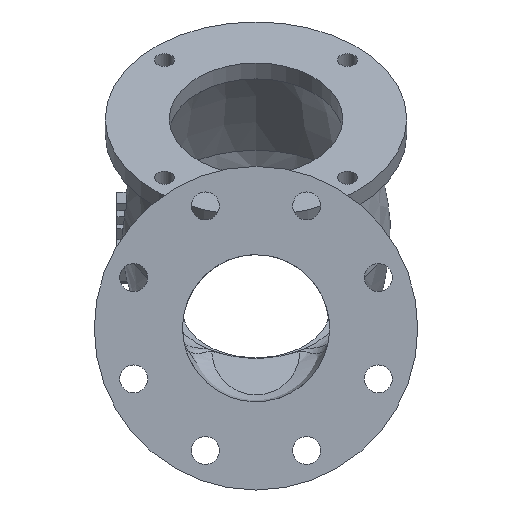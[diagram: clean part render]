
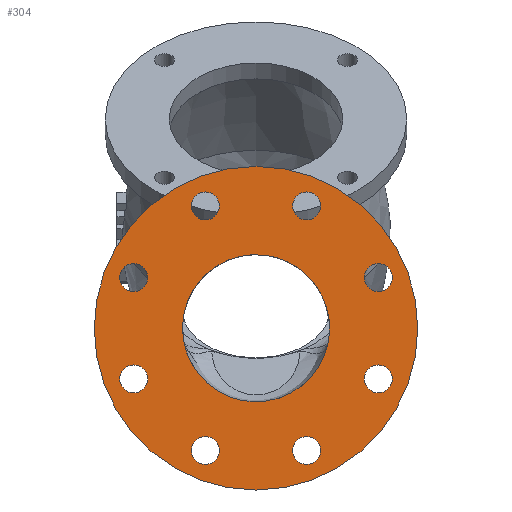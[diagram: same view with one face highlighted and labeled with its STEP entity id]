
A CAD part, left-side view. The second image highlights one B-rep face of the part: STEP entity #304.
In plain terms, the highlighted planar face has unit normal (-1, 0, 0).
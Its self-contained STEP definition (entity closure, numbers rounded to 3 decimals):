
#304 = ADVANCED_FACE( '', ( #788, #789, #790, #791, #792, #793, #794, #795, #796, #797 ), #798, .T. );
#788 = FACE_BOUND( '', #3317, .T. );
#789 = FACE_BOUND( '', #3318, .T. );
#790 = FACE_BOUND( '', #3319, .T. );
#791 = FACE_BOUND( '', #3320, .T. );
#792 = FACE_BOUND( '', #3321, .T. );
#793 = FACE_BOUND( '', #3322, .T. );
#794 = FACE_BOUND( '', #3323, .T. );
#795 = FACE_BOUND( '', #3324, .T. );
#796 = FACE_BOUND( '', #3325, .T. );
#797 = FACE_OUTER_BOUND( '', #3326, .T. );
#798 = PLANE( '', #3327 );
#3317 = EDGE_LOOP( '', ( #11021 ) );
#3318 = EDGE_LOOP( '', ( #11022 ) );
#3319 = EDGE_LOOP( '', ( #11023 ) );
#3320 = EDGE_LOOP( '', ( #11024 ) );
#3321 = EDGE_LOOP( '', ( #11025 ) );
#3322 = EDGE_LOOP( '', ( #11026 ) );
#3323 = EDGE_LOOP( '', ( #11027 ) );
#3324 = EDGE_LOOP( '', ( #11028 ) );
#3325 = EDGE_LOOP( '', ( #11029 ) );
#3326 = EDGE_LOOP( '', ( #11030 ) );
#3327 = AXIS2_PLACEMENT_3D( '', #11031, #11032, #11033 );
#11021 = ORIENTED_EDGE( '', *, *, #12598, .F. );
#11022 = ORIENTED_EDGE( '', *, *, #12599, .F. );
#11023 = ORIENTED_EDGE( '', *, *, #12417, .F. );
#11024 = ORIENTED_EDGE( '', *, *, #12600, .F. );
#11025 = ORIENTED_EDGE( '', *, *, #12601, .F. );
#11026 = ORIENTED_EDGE( '', *, *, #12602, .F. );
#11027 = ORIENTED_EDGE( '', *, *, #12573, .F. );
#11028 = ORIENTED_EDGE( '', *, *, #12603, .F. );
#11029 = ORIENTED_EDGE( '', *, *, #12604, .F. );
#11030 = ORIENTED_EDGE( '', *, *, #12496, .T. );
#11031 = CARTESIAN_POINT( '', ( -350., 0., 0. ) );
#11032 = DIRECTION( '', ( -1., 0., 0. ) );
#11033 = DIRECTION( '', ( 0., -1., 0. ) );
#12417 = EDGE_CURVE( '', #13085, #13085, #13086, .T. );
#12496 = EDGE_CURVE( '', #13225, #13225, #13226, .T. );
#12573 = EDGE_CURVE( '', #13359, #13359, #13360, .T. );
#12598 = EDGE_CURVE( '', #13399, #13399, #13400, .T. );
#12599 = EDGE_CURVE( '', #13401, #13401, #13402, .T. );
#12600 = EDGE_CURVE( '', #13403, #13403, #13404, .T. );
#12601 = EDGE_CURVE( '', #13405, #13405, #13406, .T. );
#12602 = EDGE_CURVE( '', #13407, #13407, #13408, .T. );
#12603 = EDGE_CURVE( '', #13409, #13409, #13410, .T. );
#12604 = EDGE_CURVE( '', #13411, #13411, #13412, .T. );
#13085 = VERTEX_POINT( '', #14158 );
#13086 = CIRCLE( '', #14159, 9.5 );
#13225 = VERTEX_POINT( '', #14957 );
#13226 = CIRCLE( '', #14958, 110. );
#13359 = VERTEX_POINT( '', #15846 );
#13360 = CIRCLE( '', #15847, 9.5 );
#13399 = VERTEX_POINT( '', #16009 );
#13400 = CIRCLE( '', #16010, 9.5 );
#13401 = VERTEX_POINT( '', #16011 );
#13402 = CIRCLE( '', #16012, 9.5 );
#13403 = VERTEX_POINT( '', #16013 );
#13404 = CIRCLE( '', #16014, 9.5 );
#13405 = VERTEX_POINT( '', #16015 );
#13406 = CIRCLE( '', #16016, 9.5 );
#13407 = VERTEX_POINT( '', #16017 );
#13408 = CIRCLE( '', #16018, 9.5 );
#13409 = VERTEX_POINT( '', #16019 );
#13410 = CIRCLE( '', #16020, 9.5 );
#13411 = VERTEX_POINT( '', #16021 );
#13412 = CIRCLE( '', #16022, 50. );
#14158 = CARTESIAN_POINT( '', ( -350., -92.649, 34.442 ) );
#14159 = AXIS2_PLACEMENT_3D( '', #19296, #19297, #19298 );
#14957 = CARTESIAN_POINT( '', ( -350., -110., 0. ) );
#14958 = AXIS2_PLACEMENT_3D( '', #19395, #19396, #19397 );
#15846 = CARTESIAN_POINT( '', ( -350., 73.649, -34.442 ) );
#15847 = AXIS2_PLACEMENT_3D( '', #19468, #19469, #19470 );
#16009 = CARTESIAN_POINT( '', ( -350., 24.942, 83.149 ) );
#16010 = AXIS2_PLACEMENT_3D( '', #19486, #19487, #19488 );
#16011 = CARTESIAN_POINT( '', ( -350., -43.942, 83.149 ) );
#16012 = AXIS2_PLACEMENT_3D( '', #19489, #19490, #19491 );
#16013 = CARTESIAN_POINT( '', ( -350., -92.649, -34.442 ) );
#16014 = AXIS2_PLACEMENT_3D( '', #19492, #19493, #19494 );
#16015 = CARTESIAN_POINT( '', ( -350., -43.942, -83.149 ) );
#16016 = AXIS2_PLACEMENT_3D( '', #19495, #19496, #19497 );
#16017 = CARTESIAN_POINT( '', ( -350., 24.942, -83.149 ) );
#16018 = AXIS2_PLACEMENT_3D( '', #19498, #19499, #19500 );
#16019 = CARTESIAN_POINT( '', ( -350., 73.649, 34.442 ) );
#16020 = AXIS2_PLACEMENT_3D( '', #19501, #19502, #19503 );
#16021 = CARTESIAN_POINT( '', ( -350., 50., 0. ) );
#16022 = AXIS2_PLACEMENT_3D( '', #19504, #19505, #19506 );
#19296 = CARTESIAN_POINT( '', ( -350., -83.149, 34.442 ) );
#19297 = DIRECTION( '', ( -1., 0., 0. ) );
#19298 = DIRECTION( '', ( 0., -1., 0. ) );
#19395 = CARTESIAN_POINT( '', ( -350., 0., 0. ) );
#19396 = DIRECTION( '', ( -1., 0., 0. ) );
#19397 = DIRECTION( '', ( 0., -1., 0. ) );
#19468 = CARTESIAN_POINT( '', ( -350., 83.149, -34.442 ) );
#19469 = DIRECTION( '', ( -1., 0., 0. ) );
#19470 = DIRECTION( '', ( 0., -1., 0. ) );
#19486 = CARTESIAN_POINT( '', ( -350., 34.442, 83.149 ) );
#19487 = DIRECTION( '', ( -1., 0., 0. ) );
#19488 = DIRECTION( '', ( 0., -1., 0. ) );
#19489 = CARTESIAN_POINT( '', ( -350., -34.442, 83.149 ) );
#19490 = DIRECTION( '', ( -1., 0., 0. ) );
#19491 = DIRECTION( '', ( 0., -1., 0. ) );
#19492 = CARTESIAN_POINT( '', ( -350., -83.149, -34.442 ) );
#19493 = DIRECTION( '', ( -1., 0., 0. ) );
#19494 = DIRECTION( '', ( 0., -1., 0. ) );
#19495 = CARTESIAN_POINT( '', ( -350., -34.442, -83.149 ) );
#19496 = DIRECTION( '', ( -1., 0., 0. ) );
#19497 = DIRECTION( '', ( 0., -1., 0. ) );
#19498 = CARTESIAN_POINT( '', ( -350., 34.442, -83.149 ) );
#19499 = DIRECTION( '', ( -1., 0., 0. ) );
#19500 = DIRECTION( '', ( 0., -1., 0. ) );
#19501 = CARTESIAN_POINT( '', ( -350., 83.149, 34.442 ) );
#19502 = DIRECTION( '', ( -1., 0., 0. ) );
#19503 = DIRECTION( '', ( 0., -1., 0. ) );
#19504 = CARTESIAN_POINT( '', ( -350., 0., 0. ) );
#19505 = DIRECTION( '', ( -1., 0., 0. ) );
#19506 = DIRECTION( '', ( 0., 1., 0. ) );
